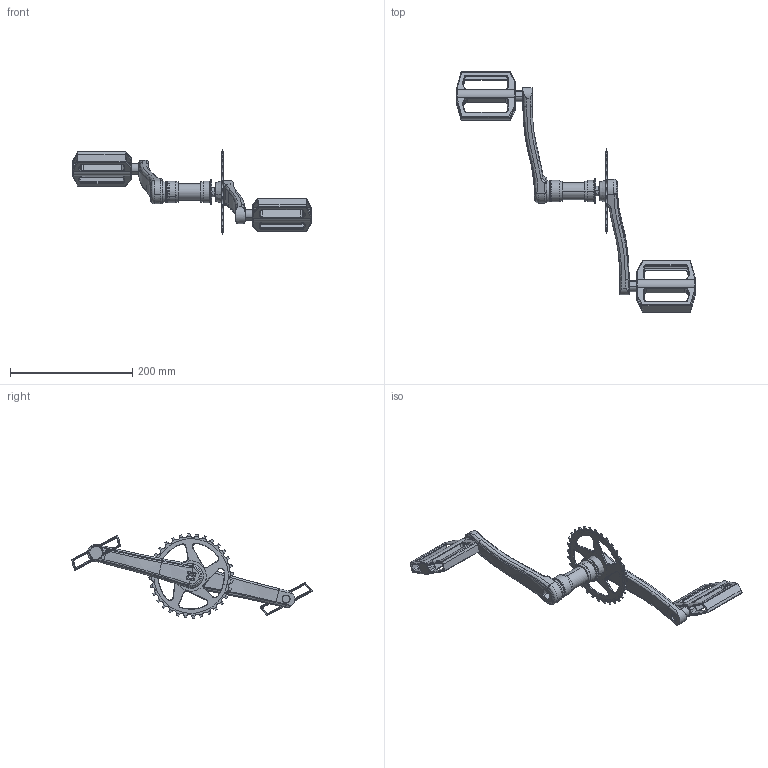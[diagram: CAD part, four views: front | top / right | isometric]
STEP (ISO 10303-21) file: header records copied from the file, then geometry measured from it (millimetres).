
FILE_DESCRIPTION (( 'STEP AP203' ), '1' );
FILE_NAME ('Crank and BB Assembly.STEP', '2021-02-01T06:11:59', ( '' ), ( '' ), 'SwSTEP 2.0', 'SolidWorks 2021', '' );
FILE_SCHEMA (( 'CONFIG_CONTROL_DESIGN' ));
Length unit declared in the file: millimetre
Products named in the file (8): Inner Cartridge; Generic Al Pedal; Square Taper Axle; Crank and BB Assembly; BB - 73 x BSA; Crank Arms; LH Cup; RH Cup
Assembly tree (8 placements, depth 3):
  Crank and BB Assembly
    BB - 73 x BSA
      Inner Cartridge
      RH Cup
      LH Cup
      Square Taper Axle
    Crank Arms
    Generic Al Pedal  x2
Bounding box: 390.12 x 393.5 x 137.94 mm (x, y, z)
Volume: 368507.8 mm3; surface area: 129394.5 mm2
Topology: 8 solids, 8 shells, 2013 faces, 5073 edges, 3010 vertices
Faces by surface type: cylinder 777, plane 385, torus 322, bspline 283, cone 203, sphere 43
Entity records: 70885 total; most frequent: CARTESIAN_POINT 29868, ORIENTED_EDGE 8930, DIRECTION 7924, EDGE_CURVE 4465, AXIS2_PLACEMENT_3D 3256, VERTEX_POINT 2676, EDGE_LOOP 1847, FACE_OUTER_BOUND 1807
